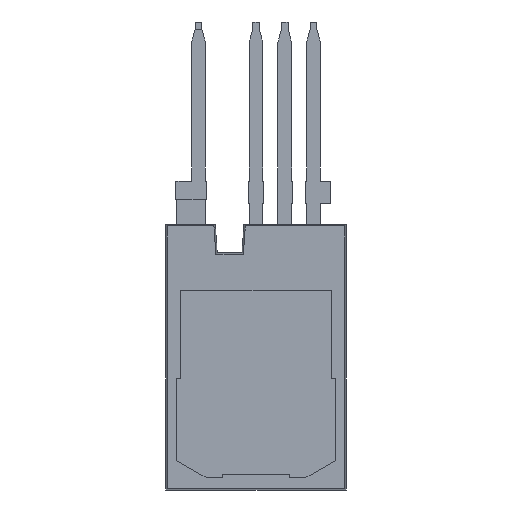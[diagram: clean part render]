
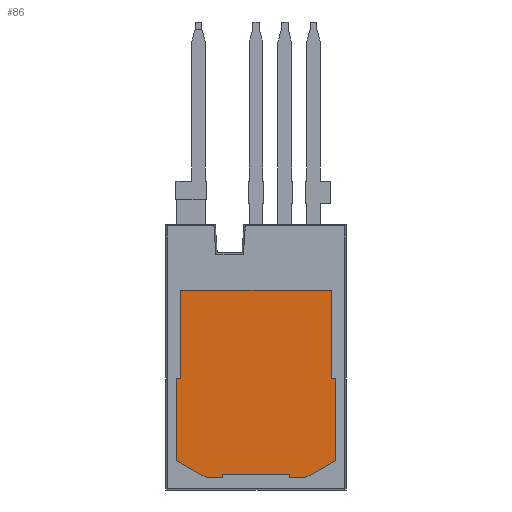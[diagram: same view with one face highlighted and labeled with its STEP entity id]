
A CAD part, front view. The second image highlights one B-rep face of the part: STEP entity #86.
In plain terms, the highlighted planar face has unit normal (0, -1, 0).
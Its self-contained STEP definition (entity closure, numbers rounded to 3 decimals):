
#7 = CARTESIAN_POINT ( 'NONE',  ( 4.013, 0., -16.688 ) ) ;
#21 = VERTEX_POINT ( 'NONE', #2087 ) ;
#62 = ORIENTED_EDGE ( 'NONE', *, *, #439, .T. ) ;
#86 = ADVANCED_FACE ( 'NONE', ( #5939 ), #4247, .T. ) ;
#90 = DIRECTION ( 'NONE',  ( 0.866, 0., -0.5 ) ) ;
#97 = LINE ( 'NONE', #5815, #5135 ) ;
#196 = CARTESIAN_POINT ( 'NONE',  ( 2.596, 0., -16.993 ) ) ;
#229 = VECTOR ( 'NONE', #6799, 1000. ) ;
#298 = ORIENTED_EDGE ( 'NONE', *, *, #4014, .F. ) ;
#302 = VERTEX_POINT ( 'NONE', #5696 ) ;
#358 = LINE ( 'NONE', #4559, #2492 ) ;
#404 = CARTESIAN_POINT ( 'NONE',  ( 4.013, 0., -16.688 ) ) ;
#439 = EDGE_CURVE ( 'NONE', #2396, #4467, #358, .T. ) ;
#454 = CARTESIAN_POINT ( 'NONE',  ( 10.008, 0., -16.993 ) ) ;
#484 = ORIENTED_EDGE ( 'NONE', *, *, #4436, .T. ) ;
#582 = CARTESIAN_POINT ( 'NONE',  ( 4.013, 0., -16.993 ) ) ;
#609 = LINE ( 'NONE', #4772, #6129 ) ;
#639 = CARTESIAN_POINT ( 'NONE',  ( 11.425, 0., -16.993 ) ) ;
#667 = CARTESIAN_POINT ( 'NONE',  ( 0., 0., 0. ) ) ;
#751 = CARTESIAN_POINT ( 'NONE',  ( 13.64, 0., -0.445 ) ) ;
#819 = EDGE_CURVE ( 'NONE', #2396, #5344, #2085, .T. ) ;
#932 = VERTEX_POINT ( 'NONE', #4999 ) ;
#1059 = DIRECTION ( 'NONE',  ( 0.866, 0., 0.5 ) ) ;
#1197 = CARTESIAN_POINT ( 'NONE',  ( 11.425, 0., -16.993 ) ) ;
#1218 = VECTOR ( 'NONE', #4180, 1000. ) ;
#1345 = LINE ( 'NONE', #3955, #5016 ) ;
#1482 = CARTESIAN_POINT ( 'NONE',  ( 13.64, 0., -0.445 ) ) ;
#1488 = VERTEX_POINT ( 'NONE', #3077 ) ;
#1562 = VECTOR ( 'NONE', #5722, 1000. ) ;
#1682 = VECTOR ( 'NONE', #1811, 1000. ) ;
#1685 = EDGE_CURVE ( 'NONE', #4258, #302, #6030, .T. ) ;
#1737 = VECTOR ( 'NONE', #2267, 1000. ) ;
#1740 = ORIENTED_EDGE ( 'NONE', *, *, #2159, .F. ) ;
#1800 = AXIS2_PLACEMENT_3D ( 'NONE', #667, #6418, #3728 ) ;
#1811 = DIRECTION ( 'NONE',  ( 0., 0., -1. ) ) ;
#1967 = CARTESIAN_POINT ( 'NONE',  ( 0.381, 0., -0.445 ) ) ;
#2085 = LINE ( 'NONE', #5283, #1218 ) ;
#2087 = CARTESIAN_POINT ( 'NONE',  ( 0.381, 0., -0.445 ) ) ;
#2119 = CARTESIAN_POINT ( 'NONE',  ( 0., 0., -8.23 ) ) ;
#2154 = LINE ( 'NONE', #1197, #2941 ) ;
#2159 = EDGE_CURVE ( 'NONE', #2992, #1488, #3372, .T. ) ;
#2187 = LINE ( 'NONE', #4360, #1737 ) ;
#2226 = ORIENTED_EDGE ( 'NONE', *, *, #5204, .F. ) ;
#2267 = DIRECTION ( 'NONE',  ( 1., 0., 0. ) ) ;
#2271 = ORIENTED_EDGE ( 'NONE', *, *, #5687, .F. ) ;
#2336 = DIRECTION ( 'NONE',  ( 1., 0., 0. ) ) ;
#2390 = VECTOR ( 'NONE', #4066, 1000. ) ;
#2396 = VERTEX_POINT ( 'NONE', #582 ) ;
#2492 = VECTOR ( 'NONE', #3758, 1000. ) ;
#2500 = DIRECTION ( 'NONE',  ( 1., 0., 0. ) ) ;
#2781 = CARTESIAN_POINT ( 'NONE',  ( 0., 0., -15.494 ) ) ;
#2811 = EDGE_CURVE ( 'NONE', #4580, #4753, #5171, .T. ) ;
#2941 = VECTOR ( 'NONE', #1059, 1000. ) ;
#2992 = VERTEX_POINT ( 'NONE', #1482 ) ;
#3077 = CARTESIAN_POINT ( 'NONE',  ( 13.64, 0., -8.23 ) ) ;
#3210 = VECTOR ( 'NONE', #2500, 1000. ) ;
#3272 = ORIENTED_EDGE ( 'NONE', *, *, #3742, .F. ) ;
#3343 = VERTEX_POINT ( 'NONE', #639 ) ;
#3372 = LINE ( 'NONE', #751, #6393 ) ;
#3728 = DIRECTION ( 'NONE',  ( 0., 0., -1. ) ) ;
#3742 = EDGE_CURVE ( 'NONE', #5806, #5928, #1345, .T. ) ;
#3758 = DIRECTION ( 'NONE',  ( 0., 0., 1. ) ) ;
#3908 = EDGE_CURVE ( 'NONE', #932, #21, #4652, .T. ) ;
#3955 = CARTESIAN_POINT ( 'NONE',  ( 0., 0., 0. ) ) ;
#3995 = DIRECTION ( 'NONE',  ( 0., 0., -1. ) ) ;
#4014 = EDGE_CURVE ( 'NONE', #3343, #4753, #97, .T. ) ;
#4034 = DIRECTION ( 'NONE',  ( 0., 0., 1. ) ) ;
#4066 = DIRECTION ( 'NONE',  ( 0., 0., 1. ) ) ;
#4145 = LINE ( 'NONE', #7, #3210 ) ;
#4180 = DIRECTION ( 'NONE',  ( -1., 0., 0. ) ) ;
#4247 = PLANE ( 'NONE',  #1800 ) ;
#4258 = VERTEX_POINT ( 'NONE', #6156 ) ;
#4358 = EDGE_CURVE ( 'NONE', #3343, #302, #2154, .T. ) ;
#4360 = CARTESIAN_POINT ( 'NONE',  ( 14.021, 0., -8.23 ) ) ;
#4436 = EDGE_CURVE ( 'NONE', #5806, #5344, #609, .T. ) ;
#4441 = EDGE_CURVE ( 'NONE', #1488, #4258, #2187, .T. ) ;
#4467 = VERTEX_POINT ( 'NONE', #404 ) ;
#4559 = CARTESIAN_POINT ( 'NONE',  ( 4.013, 0., -16.993 ) ) ;
#4580 = VERTEX_POINT ( 'NONE', #5706 ) ;
#4628 = VECTOR ( 'NONE', #2336, 1000. ) ;
#4634 = EDGE_LOOP ( 'NONE', ( #5153, #1740, #2226, #6125, #2271, #3272, #484, #4713, #62, #6303, #4714, #298, #5760, #4730 ) ) ;
#4652 = LINE ( 'NONE', #1967, #2390 ) ;
#4713 = ORIENTED_EDGE ( 'NONE', *, *, #819, .F. ) ;
#4714 = ORIENTED_EDGE ( 'NONE', *, *, #2811, .T. ) ;
#4730 = ORIENTED_EDGE ( 'NONE', *, *, #1685, .F. ) ;
#4753 = VERTEX_POINT ( 'NONE', #6108 ) ;
#4772 = CARTESIAN_POINT ( 'NONE',  ( 2.596, 0., -16.993 ) ) ;
#4999 = CARTESIAN_POINT ( 'NONE',  ( 0.381, 0., -8.23 ) ) ;
#5010 = LINE ( 'NONE', #6525, #4628 ) ;
#5016 = VECTOR ( 'NONE', #4034, 1000. ) ;
#5135 = VECTOR ( 'NONE', #6359, 1000. ) ;
#5151 = LINE ( 'NONE', #2119, #229 ) ;
#5153 = ORIENTED_EDGE ( 'NONE', *, *, #4441, .F. ) ;
#5171 = LINE ( 'NONE', #454, #1562 ) ;
#5204 = EDGE_CURVE ( 'NONE', #21, #2992, #5010, .T. ) ;
#5283 = CARTESIAN_POINT ( 'NONE',  ( 0., 0., -16.993 ) ) ;
#5344 = VERTEX_POINT ( 'NONE', #196 ) ;
#5523 = CARTESIAN_POINT ( 'NONE',  ( 14.021, 0., 0. ) ) ;
#5687 = EDGE_CURVE ( 'NONE', #5928, #932, #5151, .T. ) ;
#5696 = CARTESIAN_POINT ( 'NONE',  ( 14.021, 0., -15.494 ) ) ;
#5706 = CARTESIAN_POINT ( 'NONE',  ( 10.008, 0., -16.688 ) ) ;
#5722 = DIRECTION ( 'NONE',  ( 0., 0., -1. ) ) ;
#5760 = ORIENTED_EDGE ( 'NONE', *, *, #4358, .T. ) ;
#5806 = VERTEX_POINT ( 'NONE', #2781 ) ;
#5815 = CARTESIAN_POINT ( 'NONE',  ( 0., 0., -16.993 ) ) ;
#5928 = VERTEX_POINT ( 'NONE', #6543 ) ;
#5939 = FACE_OUTER_BOUND ( 'NONE', #4634, .T. ) ;
#6030 = LINE ( 'NONE', #5523, #1682 ) ;
#6085 = EDGE_CURVE ( 'NONE', #4467, #4580, #4145, .T. ) ;
#6108 = CARTESIAN_POINT ( 'NONE',  ( 10.008, 0., -16.993 ) ) ;
#6125 = ORIENTED_EDGE ( 'NONE', *, *, #3908, .F. ) ;
#6129 = VECTOR ( 'NONE', #90, 1000. ) ;
#6156 = CARTESIAN_POINT ( 'NONE',  ( 14.021, 0., -8.23 ) ) ;
#6303 = ORIENTED_EDGE ( 'NONE', *, *, #6085, .T. ) ;
#6359 = DIRECTION ( 'NONE',  ( -1., 0., 0. ) ) ;
#6393 = VECTOR ( 'NONE', #3995, 1000. ) ;
#6418 = DIRECTION ( 'NONE',  ( 0., -1., 0. ) ) ;
#6525 = CARTESIAN_POINT ( 'NONE',  ( 0.381, 0., -0.445 ) ) ;
#6543 = CARTESIAN_POINT ( 'NONE',  ( 0., 0., -8.23 ) ) ;
#6799 = DIRECTION ( 'NONE',  ( 1., 0., 0. ) ) ;
